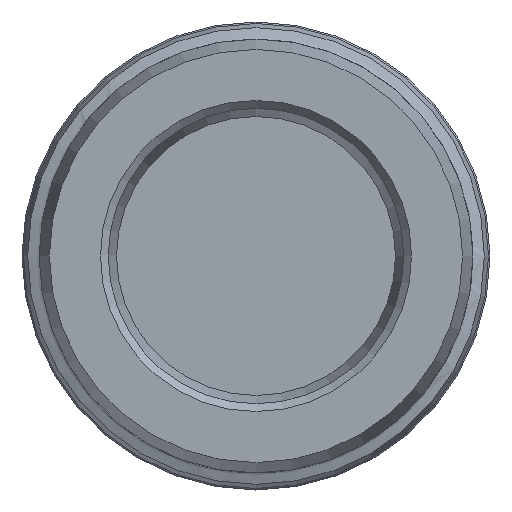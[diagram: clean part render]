
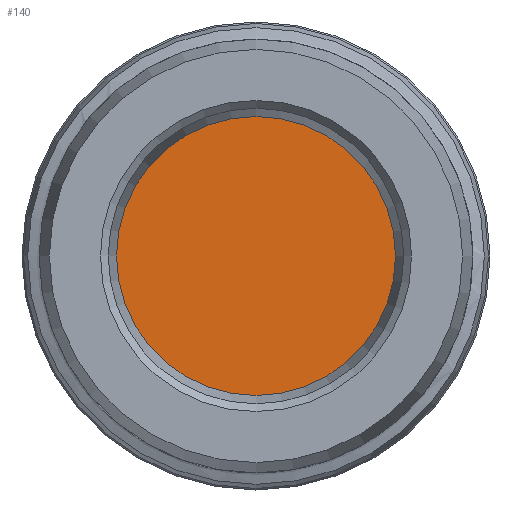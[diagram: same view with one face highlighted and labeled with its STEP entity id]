
A CAD part, front view. The second image highlights one B-rep face of the part: STEP entity #140.
In plain terms, the highlighted planar face has unit normal (0, -1, 0).
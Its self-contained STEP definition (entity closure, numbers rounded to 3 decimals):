
#25=FACE_OUTER_BOUND('',#316,.T.);
#100=PLANE('',#622);
#140=ADVANCED_FACE('',(#25),#100,.T.);
#316=EDGE_LOOP('',(#414));
#414=ORIENTED_EDGE('',*,*,#502,.T.);
#453=VERTEX_POINT('',#1040);
#502=EDGE_CURVE('',#453,#453,#538,.T.);
#538=CIRCLE('',#600,9.);
#600=AXIS2_PLACEMENT_3D('',#1039,#731,#732);
#622=AXIS2_PLACEMENT_3D('',#1069,#775,#776);
#731=DIRECTION('',(0.,-1.,0.));
#732=DIRECTION('',(0.,0.,1.));
#775=DIRECTION('',(0.,-1.,0.));
#776=DIRECTION('',(0.,0.,-1.));
#1039=CARTESIAN_POINT('',(0.,19.707,0.));
#1040=CARTESIAN_POINT('',(0.,19.707,9.));
#1069=CARTESIAN_POINT('',(0.,19.707,0.));
